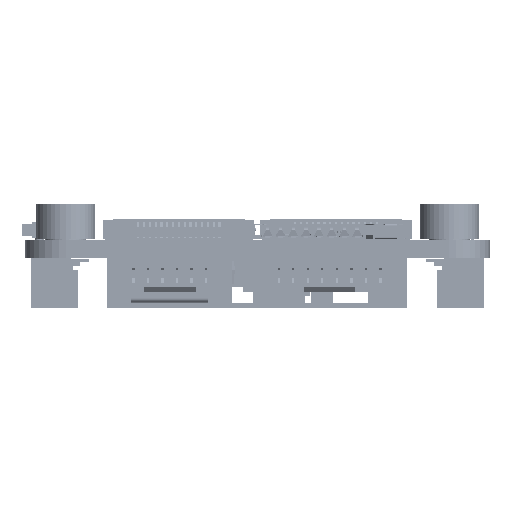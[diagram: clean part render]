
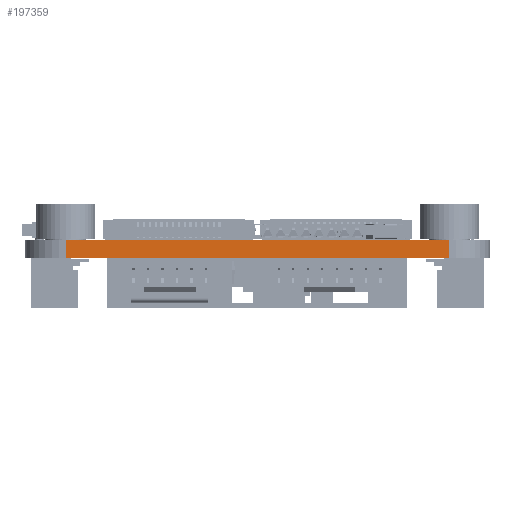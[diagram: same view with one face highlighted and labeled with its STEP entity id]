
A CAD part, front view. The second image highlights one B-rep face of the part: STEP entity #197359.
In plain terms, the highlighted planar face has unit normal (0, -1, 0).
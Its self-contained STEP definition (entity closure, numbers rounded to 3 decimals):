
#14465=FACE_OUTER_BOUND('',#24623,.T.);
#24623=EDGE_LOOP('',(#142044,#142045,#142046,#142047));
#37716=LINE('',#283537,#62821);
#37719=LINE('',#283627,#62824);
#37721=LINE('',#283708,#62826);
#37723=LINE('',#283712,#62828);
#62821=VECTOR('',#229620,1.);
#62824=VECTOR('',#229709,1.);
#62826=VECTOR('',#229793,1.);
#62828=VECTOR('',#229799,1.);
#86735=VERTEX_POINT('',#283534);
#86736=VERTEX_POINT('',#283536);
#86779=VERTEX_POINT('',#283624);
#86780=VERTEX_POINT('',#283626);
#107624=EDGE_CURVE('',#86735,#86736,#37716,.T.);
#107669=EDGE_CURVE('',#86780,#86779,#37719,.T.);
#107710=EDGE_CURVE('',#86735,#86780,#37721,.T.);
#107712=EDGE_CURVE('',#86736,#86779,#37723,.T.);
#142044=ORIENTED_EDGE('',*,*,#107710,.T.);
#142045=ORIENTED_EDGE('',*,*,#107669,.T.);
#142046=ORIENTED_EDGE('',*,*,#107712,.F.);
#142047=ORIENTED_EDGE('',*,*,#107624,.F.);
#188566=PLANE('',#208573);
#197359=ADVANCED_FACE('',(#14465),#188566,.T.);
#208573=AXIS2_PLACEMENT_3D('',#283711,#229797,#229798);
#229620=DIRECTION('',(-1.,0.,0.));
#229709=DIRECTION('',(-1.,0.,0.));
#229793=DIRECTION('',(0.,0.,1.));
#229797=DIRECTION('center_axis',(0.,-1.,0.));
#229798=DIRECTION('ref_axis',(-1.,0.,0.));
#229799=DIRECTION('',(0.,0.,1.));
#283534=CARTESIAN_POINT('',(16.5,-27.5,0.));
#283536=CARTESIAN_POINT('',(-16.5,-27.5,0.));
#283537=CARTESIAN_POINT('',(16.5,-27.5,0.));
#283624=CARTESIAN_POINT('',(-16.5,-27.5,1.51));
#283626=CARTESIAN_POINT('',(16.5,-27.5,1.51));
#283627=CARTESIAN_POINT('',(16.5,-27.5,1.51));
#283708=CARTESIAN_POINT('',(16.5,-27.5,0.));
#283711=CARTESIAN_POINT('Origin',(16.5,-27.5,0.));
#283712=CARTESIAN_POINT('',(-16.5,-27.5,0.));
